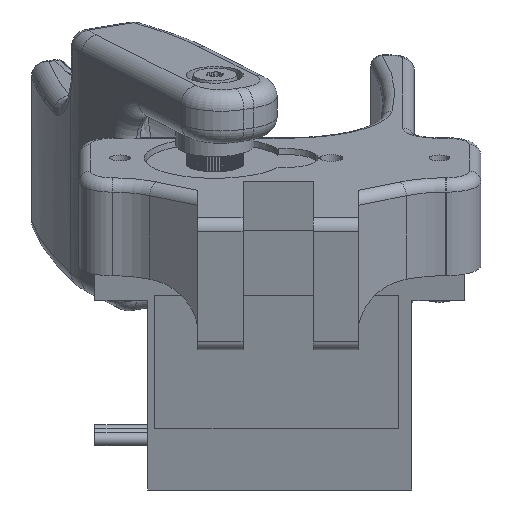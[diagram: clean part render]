
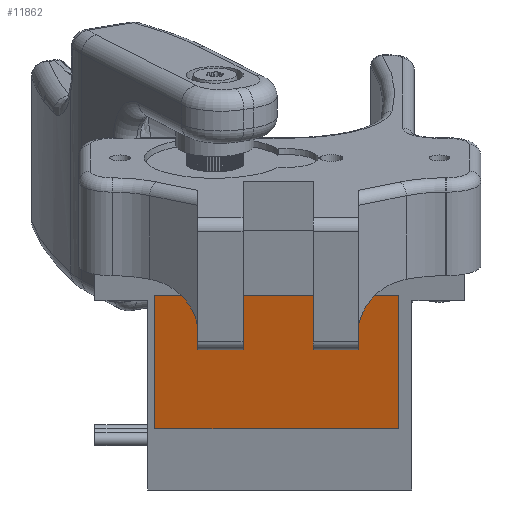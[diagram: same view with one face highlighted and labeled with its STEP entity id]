
A CAD part, front view. The second image highlights one B-rep face of the part: STEP entity #11862.
In plain terms, the highlighted planar face has unit normal (0, -0.958, -0.288) as drawn and (0, 0, -1) by its records, which use the part's own axes.
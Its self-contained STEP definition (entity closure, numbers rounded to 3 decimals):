
#2288=PLANE('',#12814);
#3123=LINE('',#19507,#4098);
#3127=LINE('',#19514,#4102);
#3130=LINE('',#19520,#4105);
#3132=LINE('',#19523,#4107);
#4098=VECTOR('',#15273,10.);
#4102=VECTOR('',#15279,10.);
#4105=VECTOR('',#15284,10.);
#4107=VECTOR('',#15288,10.);
#4902=FACE_OUTER_BOUND('',#5459,.T.);
#5459=EDGE_LOOP('',(#10343,#10344,#10345,#10346));
#7080=VERTEX_POINT('',#19504);
#7081=VERTEX_POINT('',#19506);
#7083=VERTEX_POINT('',#19512);
#7085=VERTEX_POINT('',#19518);
#8240=EDGE_CURVE('',#7080,#7081,#3123,.T.);
#8244=EDGE_CURVE('',#7083,#7080,#3127,.T.);
#8247=EDGE_CURVE('',#7085,#7083,#3130,.T.);
#8249=EDGE_CURVE('',#7081,#7085,#3132,.T.);
#10343=ORIENTED_EDGE('',*,*,#8249,.F.);
#10344=ORIENTED_EDGE('',*,*,#8240,.F.);
#10345=ORIENTED_EDGE('',*,*,#8244,.F.);
#10346=ORIENTED_EDGE('',*,*,#8247,.F.);
#11862=ADVANCED_FACE('',(#4902),#2288,.F.);
#12814=AXIS2_PLACEMENT_3D('',#19524,#15289,#15290);
#15273=DIRECTION('',(0.,-1.,0.));
#15279=DIRECTION('',(-1.,0.,0.));
#15284=DIRECTION('',(0.,1.,0.));
#15288=DIRECTION('',(1.,0.,0.));
#15289=DIRECTION('center_axis',(0.,0.,1.));
#15290=DIRECTION('ref_axis',(1.,0.,0.));
#19504=CARTESIAN_POINT('',(-16.004,-9.82,-6.15));
#19506=CARTESIAN_POINT('',(-16.004,-21.944,-6.15));
#19507=CARTESIAN_POINT('',(-16.004,-21.944,-6.15));
#19512=CARTESIAN_POINT('',(5.231,-9.82,-6.15));
#19514=CARTESIAN_POINT('',(-16.004,-9.82,-6.15));
#19518=CARTESIAN_POINT('',(5.231,-21.944,-6.15));
#19520=CARTESIAN_POINT('',(5.231,-9.82,-6.15));
#19523=CARTESIAN_POINT('',(5.231,-21.944,-6.15));
#19524=CARTESIAN_POINT('Origin',(-5.386,-15.882,-6.15));
